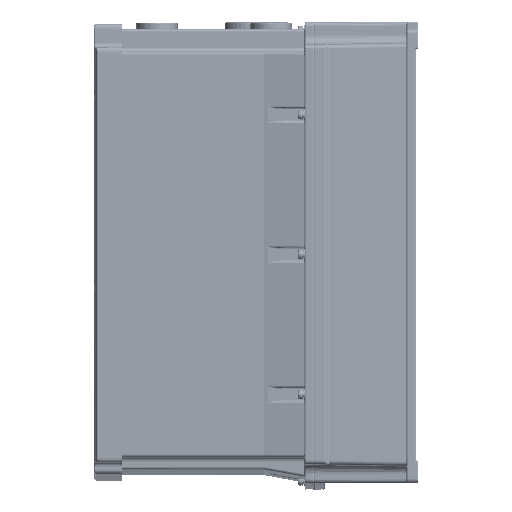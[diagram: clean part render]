
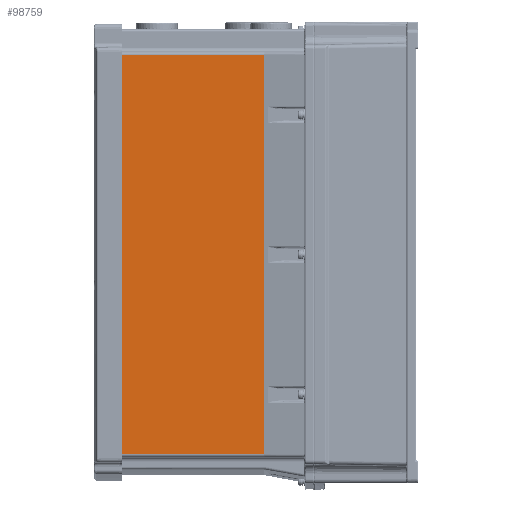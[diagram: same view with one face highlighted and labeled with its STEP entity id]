
A CAD part, left-side view. The second image highlights one B-rep face of the part: STEP entity #98759.
In plain terms, the highlighted planar face has unit normal (-1, 0, 0).
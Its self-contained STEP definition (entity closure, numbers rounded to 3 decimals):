
#58850 = CARTESIAN_POINT ( 'NONE',  ( -115., 145.7, -198.481 ) ) ;
#58903 = DIRECTION ( 'NONE',  ( 0., 0., 1. ) ) ;
#59709 = CARTESIAN_POINT ( 'NONE',  ( -115., 35.031, -198.481 ) ) ;
#59744 = DIRECTION ( 'NONE',  ( 0., 0., -1. ) ) ;
#60759 = DIRECTION ( 'NONE',  ( 0., 1., 0. ) ) ;
#60782 = CARTESIAN_POINT ( 'NONE',  ( -115., 34.856, -140. ) ) ;
#74036 = CARTESIAN_POINT ( 'NONE',  ( -115., 145.7, -32. ) ) ;
#74070 = CARTESIAN_POINT ( 'NONE',  ( -115., 145.7, 123. ) ) ;
#74156 = CARTESIAN_POINT ( 'NONE',  ( -115., 145.7, -10. ) ) ;
#74181 = CARTESIAN_POINT ( 'NONE',  ( -115., 35.031, 140. ) ) ;
#74200 = CARTESIAN_POINT ( 'NONE',  ( -115., 145.7, 101. ) ) ;
#74546 = CARTESIAN_POINT ( 'NONE',  ( -115., 149.3, -10. ) ) ;
#74574 = CARTESIAN_POINT ( 'NONE',  ( -115., 149.3, 140. ) ) ;
#74585 = CARTESIAN_POINT ( 'NONE',  ( -115., 149.3, 123. ) ) ;
#74648 = CARTESIAN_POINT ( 'NONE',  ( -115., 145.2, -63. ) ) ;
#74685 = CARTESIAN_POINT ( 'NONE',  ( -115., 149.3, -32. ) ) ;
#74721 = CARTESIAN_POINT ( 'NONE',  ( -115., 149.3, -63. ) ) ;
#74754 = CARTESIAN_POINT ( 'NONE',  ( -115., 149.3, 101. ) ) ;
#94039 = DIRECTION ( 'NONE',  ( 0., 0., 1. ) ) ;
#94070 = CARTESIAN_POINT ( 'NONE',  ( -115., 149.3, 140.709 ) ) ;
#94137 = CARTESIAN_POINT ( 'NONE',  ( -115., 34.856, -32. ) ) ;
#94167 = DIRECTION ( 'NONE',  ( 0., -1., 0. ) ) ;
#94548 = CARTESIAN_POINT ( 'NONE',  ( -115., 34.856, 101. ) ) ;
#94553 = DIRECTION ( 'NONE',  ( 0., -1., 0. ) ) ;
#94624 = DIRECTION ( 'NONE',  ( 0., 0., 1. ) ) ;
#94864 = CARTESIAN_POINT ( 'NONE',  ( -115., 149.3, 140.709 ) ) ;
#98759 = ADVANCED_FACE ( 'NONE', ( #142392 ), #268318, .F. ) ;
#106621 = CARTESIAN_POINT ( 'NONE',  ( -115., 352.912, -63. ) ) ;
#106661 = DIRECTION ( 'NONE',  ( 0., 1., 0. ) ) ;
#106781 = CARTESIAN_POINT ( 'NONE',  ( -115., 34.856, 123. ) ) ;
#106976 = CARTESIAN_POINT ( 'NONE',  ( -115., 34.856, -10. ) ) ;
#107020 = DIRECTION ( 'NONE',  ( 0., 1., 0. ) ) ;
#107086 = DIRECTION ( 'NONE',  ( 0., 1., 0. ) ) ;
#133329 = LINE ( 'NONE', #137019, #133334 ) ;
#133334 = VECTOR ( 'NONE', #137024, 1000. ) ;
#134553 = LINE ( 'NONE', #94864, #134667 ) ;
#134558 = VECTOR ( 'NONE', #94167, 1000. ) ;
#134561 = VECTOR ( 'NONE', #106661, 1000. ) ;
#134571 = LINE ( 'NONE', #106781, #134673 ) ;
#134595 = LINE ( 'NONE', #94070, #134684 ) ;
#134643 = LINE ( 'NONE', #106976, #134679 ) ;
#134667 = VECTOR ( 'NONE', #94624, 1000. ) ;
#134673 = VECTOR ( 'NONE', #107020, 1000. ) ;
#134679 = VECTOR ( 'NONE', #107086, 1000. ) ;
#134684 = VECTOR ( 'NONE', #94039, 1000. ) ;
#134687 = VECTOR ( 'NONE', #94553, 1000. ) ;
#134706 = LINE ( 'NONE', #106621, #134561 ) ;
#134720 = LINE ( 'NONE', #94137, #134558 ) ;
#134721 = LINE ( 'NONE', #94548, #134687 ) ;
#134733 = LINE ( 'NONE', #265075, #134902 ) ;
#134744 = LINE ( 'NONE', #265243, #134791 ) ;
#134760 = LINE ( 'NONE', #265325, #134766 ) ;
#134766 = VECTOR ( 'NONE', #265262, 1000. ) ;
#134791 = VECTOR ( 'NONE', #265215, 1000. ) ;
#134902 = VECTOR ( 'NONE', #265027, 1000. ) ;
#137019 = CARTESIAN_POINT ( 'NONE',  ( -115., 145.7, -198.481 ) ) ;
#137024 = DIRECTION ( 'NONE',  ( 0., 0., 1. ) ) ;
#142392 = FACE_OUTER_BOUND ( 'NONE', #245400, .T. ) ;
#152610 = VERTEX_POINT ( 'NONE', #152972 ) ;
#152880 = CARTESIAN_POINT ( 'NONE',  ( -115., 35.031, -140. ) ) ;
#152972 = CARTESIAN_POINT ( 'NONE',  ( -115., 145.2, -140. ) ) ;
#153093 = VERTEX_POINT ( 'NONE', #152880 ) ;
#175002 = EDGE_CURVE ( 'NONE', #190152, #190296, #218915, .T. ) ;
#175032 = EDGE_CURVE ( 'NONE', #190238, #153093, #219052, .T. ) ;
#175082 = EDGE_CURVE ( 'NONE', #153093, #152610, #219025, .T. ) ;
#175213 = EDGE_CURVE ( 'NONE', #190280, #190137, #133329, .T. ) ;
#176538 = EDGE_CURVE ( 'NONE', #191232, #191330, #134595, .T. ) ;
#176561 = EDGE_CURVE ( 'NONE', #191483, #190152, #134720, .T. ) ;
#176594 = EDGE_CURVE ( 'NONE', #191487, #190280, #134721, .T. ) ;
#176645 = EDGE_CURVE ( 'NONE', #191470, #191483, #134553, .T. ) ;
#176675 = EDGE_CURVE ( 'NONE', #191338, #191470, #134706, .T. ) ;
#176693 = EDGE_CURVE ( 'NONE', #190137, #191232, #134571, .T. ) ;
#176705 = EDGE_CURVE ( 'NONE', #190296, #191242, #134643, .T. ) ;
#176820 = EDGE_CURVE ( 'NONE', #191242, #191487, #134733, .T. ) ;
#176849 = EDGE_CURVE ( 'NONE', #152610, #191338, #134744, .T. ) ;
#176854 = EDGE_CURVE ( 'NONE', #191330, #190238, #134760, .T. ) ;
#190137 = VERTEX_POINT ( 'NONE', #74070 ) ;
#190152 = VERTEX_POINT ( 'NONE', #74036 ) ;
#190238 = VERTEX_POINT ( 'NONE', #74181 ) ;
#190280 = VERTEX_POINT ( 'NONE', #74200 ) ;
#190296 = VERTEX_POINT ( 'NONE', #74156 ) ;
#191232 = VERTEX_POINT ( 'NONE', #74585 ) ;
#191242 = VERTEX_POINT ( 'NONE', #74546 ) ;
#191330 = VERTEX_POINT ( 'NONE', #74574 ) ;
#191338 = VERTEX_POINT ( 'NONE', #74648 ) ;
#191470 = VERTEX_POINT ( 'NONE', #74721 ) ;
#191483 = VERTEX_POINT ( 'NONE', #74685 ) ;
#191487 = VERTEX_POINT ( 'NONE', #74754 ) ;
#218915 = LINE ( 'NONE', #58850, #219061 ) ;
#218956 = VECTOR ( 'NONE', #60759, 1000. ) ;
#219025 = LINE ( 'NONE', #60782, #218956 ) ;
#219034 = VECTOR ( 'NONE', #59744, 1000. ) ;
#219052 = LINE ( 'NONE', #59709, #219034 ) ;
#219061 = VECTOR ( 'NONE', #58903, 1000. ) ;
#233595 = ORIENTED_EDGE ( 'NONE', *, *, #175032, .F. ) ;
#233618 = ORIENTED_EDGE ( 'NONE', *, *, #176538, .F. ) ;
#233669 = ORIENTED_EDGE ( 'NONE', *, *, #176705, .F. ) ;
#233745 = ORIENTED_EDGE ( 'NONE', *, *, #176849, .F. ) ;
#233784 = ORIENTED_EDGE ( 'NONE', *, *, #175082, .F. ) ;
#236535 = ORIENTED_EDGE ( 'NONE', *, *, #176675, .F. ) ;
#236559 = ORIENTED_EDGE ( 'NONE', *, *, #175213, .F. ) ;
#236584 = ORIENTED_EDGE ( 'NONE', *, *, #176854, .F. ) ;
#236608 = ORIENTED_EDGE ( 'NONE', *, *, #176594, .F. ) ;
#236614 = ORIENTED_EDGE ( 'NONE', *, *, #176820, .F. ) ;
#236619 = ORIENTED_EDGE ( 'NONE', *, *, #176561, .F. ) ;
#236660 = ORIENTED_EDGE ( 'NONE', *, *, #176693, .F. ) ;
#236697 = ORIENTED_EDGE ( 'NONE', *, *, #175002, .F. ) ;
#236715 = ORIENTED_EDGE ( 'NONE', *, *, #176645, .F. ) ;
#245400 = EDGE_LOOP ( 'NONE', ( #236614, #233669, #236697, #236619, #236715, #236535, #233745, #233784, #233595, #236584, #233618, #236660, #236559, #236608 ) ) ;
#264643 = AXIS2_PLACEMENT_3D ( 'NONE', #268297, #268320, #268313 ) ;
#265027 = DIRECTION ( 'NONE',  ( 0., 0., 1. ) ) ;
#265075 = CARTESIAN_POINT ( 'NONE',  ( -115., 149.3, 140.709 ) ) ;
#265215 = DIRECTION ( 'NONE',  ( 0., 0., 1. ) ) ;
#265243 = CARTESIAN_POINT ( 'NONE',  ( -115., 145.2, 619.094 ) ) ;
#265262 = DIRECTION ( 'NONE',  ( 0., -1., 0. ) ) ;
#265325 = CARTESIAN_POINT ( 'NONE',  ( -115., 352.912, 140. ) ) ;
#268297 = CARTESIAN_POINT ( 'NONE',  ( -115., 34.856, -198.481 ) ) ;
#268313 = DIRECTION ( 'NONE',  ( 0., 0., -1. ) ) ;
#268318 = PLANE ( 'NONE',  #264643 ) ;
#268320 = DIRECTION ( 'NONE',  ( 1., 0., 0. ) ) ;
